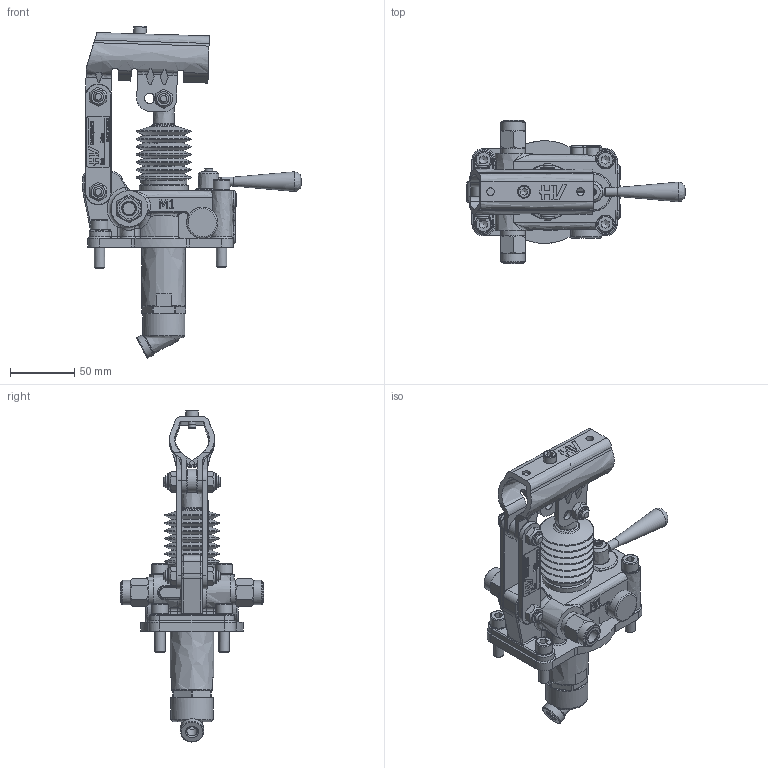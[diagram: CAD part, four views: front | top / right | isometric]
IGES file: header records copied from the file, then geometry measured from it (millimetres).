
Global section: file name: No Iges File Name specified; native system: Autodesk Inventor 2013; preprocessor: AutoDesk Inventor Iges Exporter R2013; author: christian.scardovi; date: 20240307.122039; units: millimetre
Bounding box: 170 x 112 x 258.53 mm (x, y, z)
Volume: 424933.5 mm3; surface area: 137930.3 mm2
Topology: 3 solids, 3 shells, 1769 faces, 4507 edges, 2853 vertices
Faces by surface type: bspline 1769
